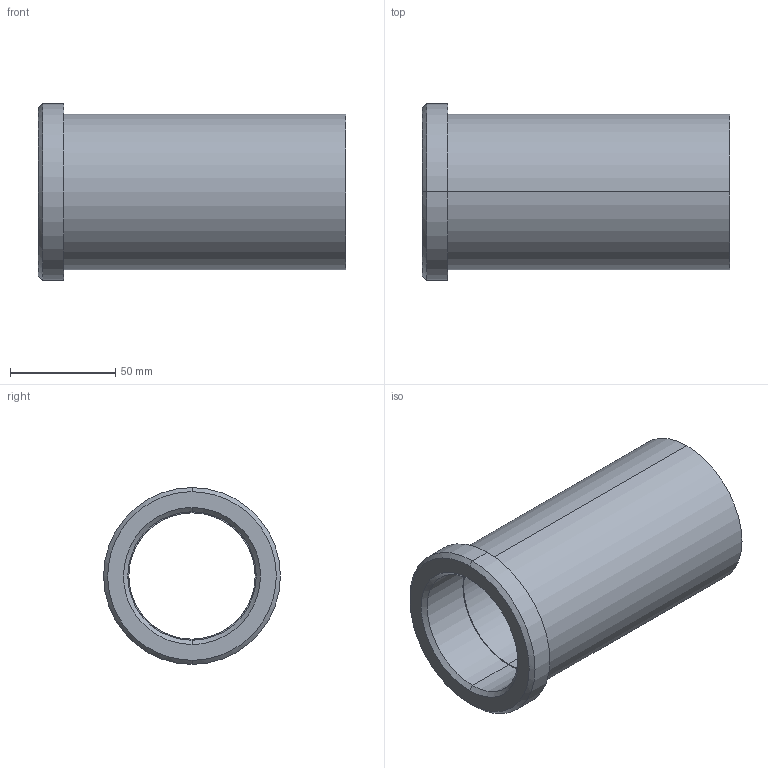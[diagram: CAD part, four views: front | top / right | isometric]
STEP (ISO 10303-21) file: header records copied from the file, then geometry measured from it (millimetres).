
FILE_DESCRIPTION(('CATIA V5 STEP Exchange'),'2;1');
FILE_NAME('C:\Users\Utente\Desktop\IO LAVORO\3D X SITO CF\X SITO\PLASTICA\353\353-60X146.stp','2021-05-14T17:57:06+00:00',('none'),('none'),'CATIA Version 5 Release 20 GA (IN-10)','CATIA V5 STEP AP203','none');
FILE_SCHEMA(('CONFIG_CONTROL_DESIGN'));
Length unit declared in the file: millimetre
Products named in the file (1): 353-60x146
Bounding box: 146 x 84 x 84 mm (x, y, z)
Volume: 226254.4 mm3; surface area: 66577.1 mm2
Topology: 1 solids, 1 shells, 18 faces, 58 edges, 44 vertices
Faces by surface type: cylinder 8, plane 4, cone 4, torus 2
Entity records: 840 total; most frequent: CARTESIAN_POINT 289, ORIENTED_EDGE 116, DIRECTION 82, EDGE_CURVE 58, AXIS2_PLACEMENT_3D 53, VERTEX_POINT 44, CIRCLE 34, EDGE_LOOP 22
